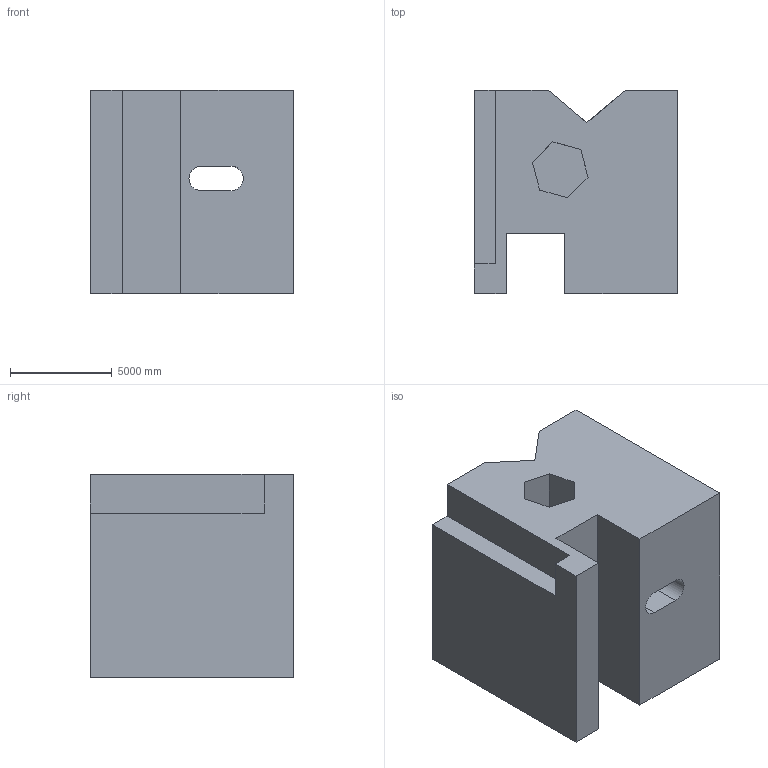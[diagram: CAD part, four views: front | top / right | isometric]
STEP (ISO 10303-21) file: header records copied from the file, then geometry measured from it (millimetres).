
FILE_DESCRIPTION (( 'STEP AP203' ), '1' );
FILE_NAME ('444.STEP', '2022-07-29T11:18:31', ( 'user' ), ( '' ), 'SwSTEP 2.0', 'SolidWorks 2021', '' );
FILE_SCHEMA (( 'CONFIG_CONTROL_DESIGN' ));
Length unit declared in the file: centimetre
Products named in the file (1): 444
Bounding box: 10000 x 10000 x 10000 mm (x, y, z)
Volume: 828212215529.9 mm3; surface area: 724069123 mm2
Topology: 1 solids, 1 shells, 28 faces, 78 edges, 52 vertices
Faces by surface type: plane 26, cylinder 2
Entity records: 966 total; most frequent: CARTESIAN_POINT 168, ORIENTED_EDGE 156, DIRECTION 136, EDGE_CURVE 78, VECTOR 72, LINE 72, VERTEX_POINT 52, AXIS2_PLACEMENT_3D 32
